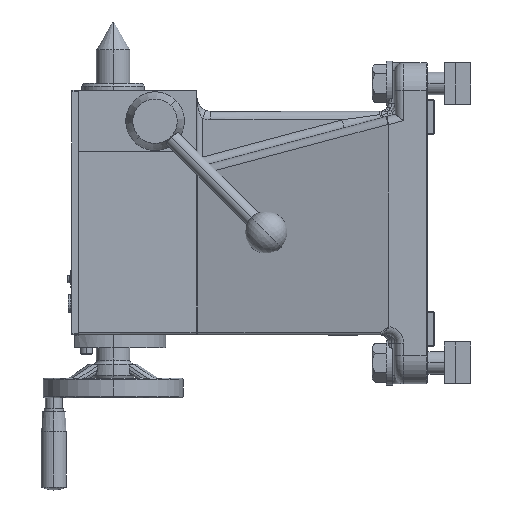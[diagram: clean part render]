
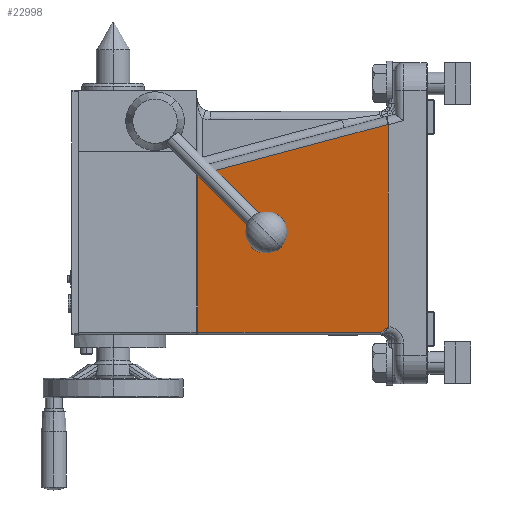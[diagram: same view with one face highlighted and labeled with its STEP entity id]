
A CAD part, left-side view. The second image highlights one B-rep face of the part: STEP entity #22998.
In plain terms, the highlighted planar face has unit normal (-0.975, 0.221, 0).
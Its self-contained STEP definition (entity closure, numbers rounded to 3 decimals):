
#2654 = LINE ( 'NONE', #29420, #32661 ) ;
#4122 = CARTESIAN_POINT ( 'NONE',  ( -74.423, 30.551, -191.047 ) ) ;
#5474 = ORIENTED_EDGE ( 'NONE', *, *, #41787, .T. ) ;
#6835 = CARTESIAN_POINT ( 'NONE',  ( -74.951, 28.218, -38.34 ) ) ;
#9778 = ORIENTED_EDGE ( 'NONE', *, *, #39344, .T. ) ;
#9810 = CARTESIAN_POINT ( 'NONE',  ( -74.597, 29.779, -190.651 ) ) ;
#10679 = CARTESIAN_POINT ( 'NONE',  ( -35.95, 200.574, -90.438 ) ) ;
#10715 = VECTOR ( 'NONE', #41540, 1000. ) ;
#11748 = ORIENTED_EDGE ( 'NONE', *, *, #71325, .T. ) ;
#11769 = LINE ( 'NONE', #10679, #39951 ) ;
#15489 = CARTESIAN_POINT ( 'NONE',  ( -74.767, 29.03, -190.215 ) ) ;
#15571 = CARTESIAN_POINT ( 'NONE',  ( -44., 165., -230. ) ) ;
#16129 = CARTESIAN_POINT ( 'NONE',  ( -74.949, 28.228, -44.336 ) ) ;
#16354 = DIRECTION ( 'NONE',  ( 0.214, 0.944, -0.253 ) ) ;
#17555 = CARTESIAN_POINT ( 'NONE',  ( -73.697, 33.76, -193. ) ) ;
#18943 = VERTEX_POINT ( 'NONE', #26667 ) ;
#21146 = CARTESIAN_POINT ( 'NONE',  ( -74.891, 28.482, -189.738 ) ) ;
#21207 = DIRECTION ( 'NONE',  ( 0.975, -0.221, 0. ) ) ;
#22740 = ORIENTED_EDGE ( 'NONE', *, *, #64978, .T. ) ;
#22998 = ADVANCED_FACE ( 'NONE', ( #34628 ), #49311, .F. ) ;
#25730 = LINE ( 'NONE', #30267, #10715 ) ;
#26584 = CARTESIAN_POINT ( 'NONE',  ( -73.697, 33.76, -193. ) ) ;
#26667 = CARTESIAN_POINT ( 'NONE',  ( -74.944, 28.247, -44.263 ) ) ;
#26818 = CARTESIAN_POINT ( 'NONE',  ( -74.934, 28.29, -189.424 ) ) ;
#27914 = EDGE_CURVE ( 'NONE', #52699, #65158, #2654, .T. ) ;
#29420 = CARTESIAN_POINT ( 'NONE',  ( -44., 165., -193. ) ) ;
#30267 = CARTESIAN_POINT ( 'NONE',  ( -44.148, 164.346, -193. ) ) ;
#32227 = CARTESIAN_POINT ( 'NONE',  ( -73.909, 32.821, -192.315 ) ) ;
#32468 = CARTESIAN_POINT ( 'NONE',  ( -74.949, 28.227, -189.211 ) ) ;
#32661 = VECTOR ( 'NONE', #68694, 1000. ) ;
#34628 = FACE_OUTER_BOUND ( 'NONE', #36549, .T. ) ;
#36549 = EDGE_LOOP ( 'NONE', ( #22740, #11748, #47058, #5474, #55184, #9778 ) ) ;
#37640 = VERTEX_POINT ( 'NONE', #69753 ) ;
#37876 = CARTESIAN_POINT ( 'NONE',  ( -74.248, 31.323, -191.443 ) ) ;
#38107 = CARTESIAN_POINT ( 'NONE',  ( -74.951, 28.218, -189.063 ) ) ;
#39344 = EDGE_CURVE ( 'NONE', #47466, #18943, #72870, .T. ) ;
#39951 = VECTOR ( 'NONE', #16354, 1000. ) ;
#40304 = DIRECTION ( 'NONE',  ( 0., 0., 1. ) ) ;
#41540 = DIRECTION ( 'NONE',  ( 0., 0., -1. ) ) ;
#41787 = EDGE_CURVE ( 'NONE', #65158, #55704, #68368, .T. ) ;
#43526 = CARTESIAN_POINT ( 'NONE',  ( -74.481, 30.293, -190.917 ) ) ;
#44161 = CARTESIAN_POINT ( 'NONE',  ( -74.951, 28.218, -44.492 ) ) ;
#47058 = ORIENTED_EDGE ( 'NONE', *, *, #27914, .T. ) ;
#47466 = VERTEX_POINT ( 'NONE', #58036 ) ;
#49238 = CARTESIAN_POINT ( 'NONE',  ( -74.655, 29.524, -190.515 ) ) ;
#49311 = PLANE ( 'NONE',  #57978 ) ;
#49869 = CARTESIAN_POINT ( 'NONE',  ( -74.951, 28.218, -44.413 ) ) ;
#51216 = VECTOR ( 'NONE', #40304, 1000. ) ;
#52699 = VERTEX_POINT ( 'NONE', #59395 ) ;
#54872 = CARTESIAN_POINT ( 'NONE',  ( -74.822, 28.787, -190.05 ) ) ;
#55184 = ORIENTED_EDGE ( 'NONE', *, *, #66020, .T. ) ;
#55507 = CARTESIAN_POINT ( 'NONE',  ( -74.944, 28.247, -44.263 ) ) ;
#55704 = VERTEX_POINT ( 'NONE', #65898 ) ;
#57978 = AXIS2_PLACEMENT_3D ( 'NONE', #15571, #21207, #60568 ) ;
#58036 = CARTESIAN_POINT ( 'NONE',  ( -74.951, 28.218, -44.492 ) ) ;
#59395 = CARTESIAN_POINT ( 'NONE',  ( -44.148, 164.346, -193. ) ) ;
#60498 = CARTESIAN_POINT ( 'NONE',  ( -74.912, 28.389, -189.621 ) ) ;
#60568 = DIRECTION ( 'NONE',  ( 0.221, 0.975, 0. ) ) ;
#64978 = EDGE_CURVE ( 'NONE', #18943, #37640, #11769, .T. ) ;
#65158 = VERTEX_POINT ( 'NONE', #17555 ) ;
#65881 = CARTESIAN_POINT ( 'NONE',  ( -73.801, 33.3, -192.64 ) ) ;
#65898 = CARTESIAN_POINT ( 'NONE',  ( -74.951, 28.218, -189.063 ) ) ;
#66020 = EDGE_CURVE ( 'NONE', #55704, #47466, #66118, .T. ) ;
#66118 = LINE ( 'NONE', #6835, #51216 ) ;
#66123 = CARTESIAN_POINT ( 'NONE',  ( -74.94, 28.263, -189.354 ) ) ;
#68368 = B_SPLINE_CURVE_WITH_KNOTS ( 'NONE', 3,
 ( #26584, #65881, #32227, #71526, #37876, #4122, #43526, #9810, #49238, #15489, #54872, #21146, #60498, #26818, #66123, #32468, #71765, #38107 ),
 .UNSPECIFIED., .F., .F.,
 ( 4, 2, 2, 2, 2, 2, 2, 2, 4 ),
 ( 0., 0.002, 0.004, 0.004, 0.005, 0.006, 0.007, 0.007, 0.007 ),
 .UNSPECIFIED. ) ;
#68694 = DIRECTION ( 'NONE',  ( -0.221, -0.975, 0. ) ) ;
#69753 = CARTESIAN_POINT ( 'NONE',  ( -44.148, 164.346, -80.73 ) ) ;
#71325 = EDGE_CURVE ( 'NONE', #37640, #52699, #25730, .T. ) ;
#71526 = CARTESIAN_POINT ( 'NONE',  ( -74.133, 31.832, -191.716 ) ) ;
#71765 = CARTESIAN_POINT ( 'NONE',  ( -74.951, 28.218, -189.137 ) ) ;
#72870 =( BOUNDED_CURVE ( )  B_SPLINE_CURVE ( 3, ( #44161, #49869, #16129, #55507 ),
 .UNSPECIFIED., .F., .T. ) 
 B_SPLINE_CURVE_WITH_KNOTS ( ( 4, 4 ),
 ( 3.083, 3.14 ),
 .UNSPECIFIED. ) 
 CURVE ( )  GEOMETRIC_REPRESENTATION_ITEM ( )  RATIONAL_B_SPLINE_CURVE ( ( 1., 1., 1., 1. ) ) 
 REPRESENTATION_ITEM ( '' )  );
